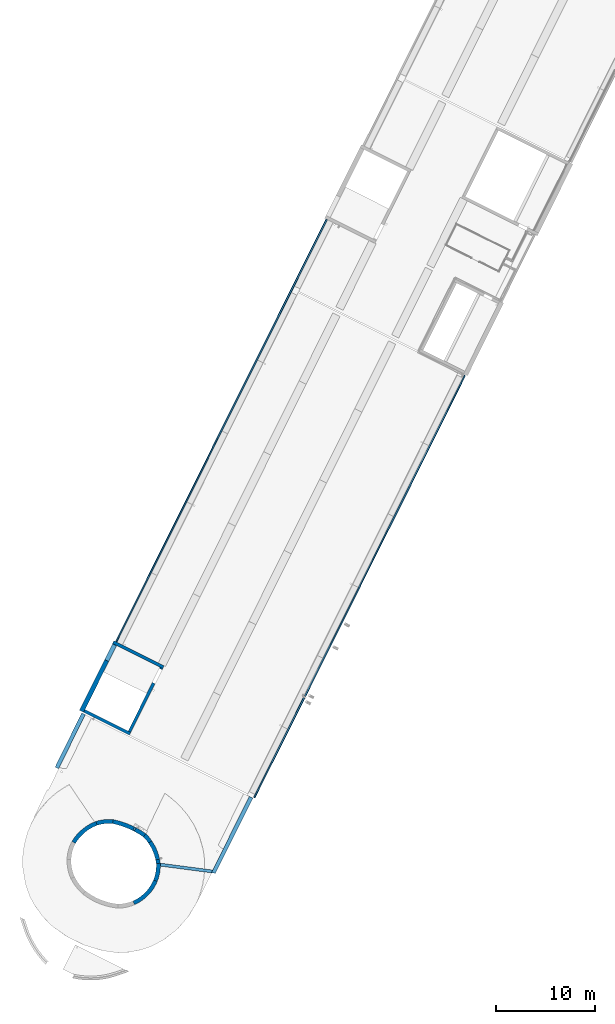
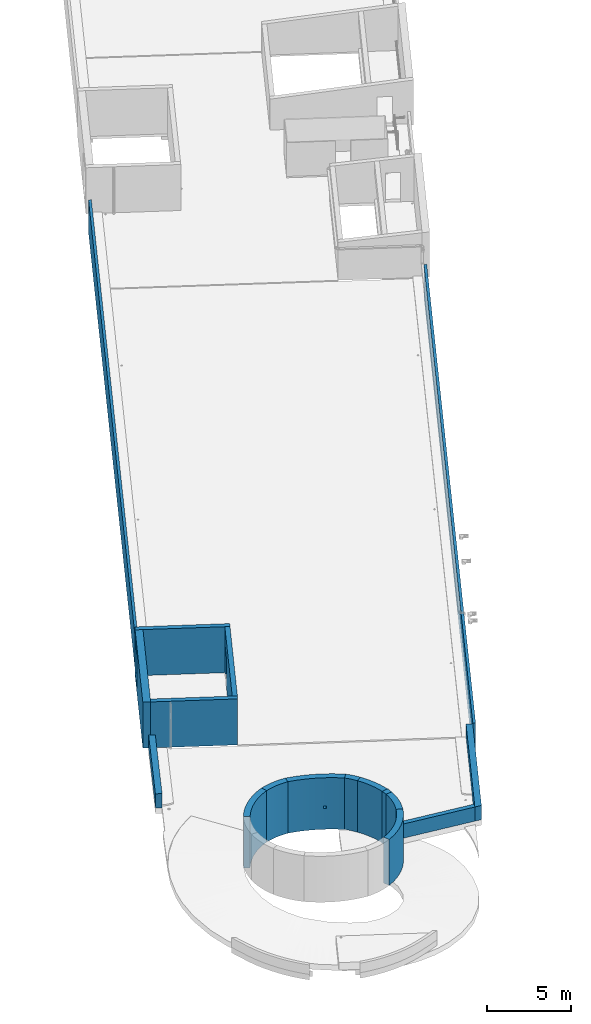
# One storey, part 4 of 34: 17 walls, 3 openings.
"""IFC2X3 building model written with IfcOpenShell, lengths in metres."""

from ifc_helpers import new_model, entity, si_unit, converted_unit, derived_unit, direction, frame, frame_2d, origin, place, context, subcontext, project, spatial, polyline, circle_curve, parameter, trimmed, segment, composite_curve, rectangle, outline, extrude, material, layer, layer_set, layer_usage, type_object, element, save


model = new_model("IFC2X3")

# Units and contexts
model_context = context("Model", 3, precision=1e-05, world=origin(), true_north=direction((0.894925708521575, 0.446215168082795)))
context_of_model = context(None, 3, precision=1e-05, world=origin(), true_north=direction((0.894925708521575, 0.446215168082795)))
body_context = subcontext(model_context, "Body", "Model", "MODEL_VIEW")
ifc_project = project(units=[si_unit("LENGTHUNIT", "METRE"), si_unit("AREAUNIT", "SQUARE_METRE"), si_unit("VOLUMEUNIT", "CUBIC_METRE"), converted_unit("PLANEANGLEUNIT", "DEGREE", entity("IfcRatioMeasure", 0.0174532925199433), si_unit("PLANEANGLEUNIT", "RADIAN"), dimensions=[0, 0, 0, 0, 0, 0, 0]), si_unit("MASSUNIT", "GRAM", prefix="KILO"), si_unit("TIMEUNIT", "SECOND"), si_unit("FREQUENCYUNIT", "HERTZ"), si_unit("THERMODYNAMICTEMPERATUREUNIT", "DEGREE_CELSIUS"), derived_unit("THERMALTRANSMITTANCEUNIT", [(si_unit("MASSUNIT", "GRAM", prefix="KILO"), 1), (si_unit("THERMODYNAMICTEMPERATUREUNIT", "KELVIN"), -1), (si_unit("TIMEUNIT", "SECOND"), -3)]), derived_unit("VOLUMETRICFLOWRATEUNIT", [(si_unit("LENGTHUNIT", "METRE"), 3), (si_unit("TIMEUNIT", "SECOND"), -1)]), si_unit("ELECTRICCURRENTUNIT", "AMPERE"), si_unit("ELECTRICVOLTAGEUNIT", "VOLT"), si_unit("POWERUNIT", "WATT"), si_unit("FORCEUNIT", "NEWTON", prefix="KILO"), si_unit("ILLUMINANCEUNIT", "LUX"), si_unit("LUMINOUSFLUXUNIT", "LUMEN"), si_unit("LUMINOUSINTENSITYUNIT", "CANDELA"), si_unit("PRESSUREUNIT", "PASCAL")], contexts=[model_context, context_of_model])

# Site, building, storey
site_placement = place(None, frame((218.228324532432, 584.720189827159, 0.0), z_axis=(0.0, 0.0, 1.0), x_axis=(0.446215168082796, 0.894925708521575, 0.0)))
site = spatial("IfcSite", under=ifc_project, at=site_placement, Name="Default", CompositionType="ELEMENT")
building_placement = place(site_placement, origin())
building = spatial("IfcBuilding", under=site, at=building_placement, CompositionType="ELEMENT")
storey_placement = place(building_placement, frame((0.0, 0.0, 8.61)))
storey = spatial("IfcBuildingStorey", under=building, at=storey_placement, Name="2 - Piano Secondo", CompositionType="ELEMENT", Elevation=8.61)

# Wall, opening
ifc_material_1 = material(Name="Alluminio")
ifc_layer_1 = layer(ifc_material_1, 0.15)
ifc_material_2 = material(Name="Default - Calcestruzzo")
ifc_layer_2 = layer(ifc_material_2, 0.3)
ifc_material_3 = material(Name="Intonaco - Bianco")
ifc_layer_3 = layer(ifc_material_3, 0.02)
ifc_layer_set_1 = layer_set([ifc_layer_1, ifc_layer_2, ifc_layer_3], Name="Muro di base:Setto CA rivestito int-est 47 cm")
ifc_layer_usage_1 = layer_usage(ifc_layer_set_1, "AXIS2", "NEGATIVE", 0.235)
wall_type_1 = type_object("IfcWallType", Name="Muro di base:Setto CA rivestito int-est 47 cm", PredefinedType="STANDARD", material=ifc_layer_set_1)
wall_1_placement = place(storey_placement, frame((-60.5294493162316, 6.22392100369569, 0.0)))
wall_1 = element("IfcWallStandardCase", 1, at=wall_1_placement, inside=storey, type_object=wall_type_1, material=ifc_layer_usage_1, Name="Muro di base:Setto CA rivestito int-est 47 cm", ObjectType="Muro di base:Setto CA rivestito int-est 47 cm", context=body_context, shape_type="SweptSolid", body=[
    extrude(rectangle(XDim=7.51999999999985, YDim=0.469999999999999, at=frame_2d((3.75999999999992, 0.0), x_axis=(-1.0, 0.0))), origin(), (0.0, 0.0, 1.0), 3.34),
])
opening_1_placement = place(wall_1_placement, frame((5.70999999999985, -1.289, 0.200000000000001)))
element("IfcOpeningElement", 2, at=opening_1_placement, cuts=wall_1, Name="Muro di base:Setto CA rivestito int-est 47 cm", ObjectType="Opening", context=body_context, shape_type="SweptSolid", body=[
    extrude(rectangle(XDim=2.47, YDim=1.8, at=frame_2d((1.11022302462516e-15, -4.32986979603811e-15), x_axis=(1.0, 0.0))), frame((0.900000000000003, 0.0, 1.235), z_axis=(0.0, 1.0, 0.0), x_axis=(0.0, 0.0, -1.0)), (0.0, 0.0, 1.0), 3.048),
])

# Walls
ifc_layer_4 = layer(ifc_material_2, 0.3)
ifc_layer_5 = layer(ifc_material_3, 0.01)
ifc_layer_set_2 = layer_set([ifc_layer_4, ifc_layer_5], Name="Muro di base:Setto CA rivestito int - 31 cm")
ifc_layer_usage_2 = layer_usage(ifc_layer_set_2, "AXIS2", "NEGATIVE", 0.155)
wall_type_2 = type_object("IfcWallType", Name="Muro di base:Setto CA rivestito int - 31 cm", PredefinedType="STANDARD", material=ifc_layer_set_2)
wall_2_placement = place(storey_placement, frame((-52.8544493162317, 6.45892100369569, 0.0), z_axis=(0.0, 0.0, 1.0), x_axis=(0.0, -1.0, 0.0)))
element("IfcWallStandardCase", 3, at=wall_2_placement, inside=storey, type_object=wall_type_2, material=ifc_layer_usage_2, Name="Muro di base:Setto CA rivestito int - 31 cm", ObjectType="Muro di base:Setto CA rivestito int - 31 cm", context=body_context, shape_type="SweptSolid", body=[
    extrude(rectangle(XDim=5.65999999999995, YDim=0.309999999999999, at=frame_2d((2.82999999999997, 0.0), x_axis=(-1.0, 0.0))), origin(), (0.0, 0.0, 1.0), 3.34),
])
ifc_layer_usage_3 = layer_usage(ifc_layer_set_2, "AXIS2", "NEGATIVE", 0.155)
wall_3_placement = place(storey_placement, frame((-60.3744493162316, 0.798921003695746, 0.0), z_axis=(0.0, 0.0, 1.0), x_axis=(0.0, 1.0, 0.0)))
element("IfcWallStandardCase", 4, at=wall_3_placement, inside=storey, type_object=wall_type_2, material=ifc_layer_usage_3, Name="Muro di base:Setto CA rivestito int - 31 cm", ObjectType="Muro di base:Setto CA rivestito int - 31 cm", context=body_context, shape_type="SweptSolid", body=[
    extrude(rectangle(XDim=5.18999999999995, YDim=0.309999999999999, at=frame_2d((2.59499999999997, 0.0), x_axis=(-1.0, 0.0))), origin(), (0.0, 0.0, 1.0), 3.34),
])

# Wall, opening
ifc_layer_usage_4 = layer_usage(ifc_layer_set_2, "AXIS2", "NEGATIVE", 0.155)
wall_4_placement = place(storey_placement, frame((-53.0094493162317, 0.953921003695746, 0.0), z_axis=(0.0, 0.0, 1.0), x_axis=(-1.0, 0.0, 0.0)))
wall_4 = element("IfcWallStandardCase", 5, at=wall_4_placement, inside=storey, type_object=wall_type_2, material=ifc_layer_usage_4, Name="Muro di base:Setto CA rivestito int - 31 cm", ObjectType="Muro di base:Setto CA rivestito int - 31 cm", context=body_context, shape_type="SweptSolid", body=[
    extrude(rectangle(XDim=7.20999999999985, YDim=0.31, at=frame_2d((3.60499999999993, 0.0), x_axis=(-1.0, 0.0))), origin(), (0.0, 0.0, 1.0), 3.34),
])
opening_2_placement = place(wall_4_placement, frame((1.73, 1.369, 0.0)))
element("IfcOpeningElement", 6, at=opening_2_placement, cuts=wall_4, Name="Muro di base:Setto CA rivestito int - 31 cm", ObjectType="Opening", context=body_context, shape_type="SweptSolid", body=[
    extrude(rectangle(XDim=2.15, YDim=1.6, at=frame_2d((0.0, 0.0), x_axis=(0.0, 1.0))), frame((-0.8, -3.048, 1.075), z_axis=(0.0, 1.0, 0.0), x_axis=(1.0, 0.0, 0.0)), (0.0, 0.0, 1.0), 3.048),
])

# Walls
ifc_layer_6 = layer(ifc_material_2, 0.3)
ifc_layer_set_3 = layer_set([ifc_layer_6], Name="Muro di base:Setto CA - 30 cm")
ifc_layer_usage_5 = layer_usage(ifc_layer_set_3, "AXIS2", "NEGATIVE", 0.15)
wall_type_3 = type_object("IfcWallType", Name="Muro di base:Setto CA - 30 cm", PredefinedType="STANDARD", material=ifc_layer_set_3)
wall_5_placement = place(storey_placement, frame((-70.8566129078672, -7.80589881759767, 0.0), z_axis=(0.0, 0.0, 1.0), x_axis=(0.326062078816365, -0.945348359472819, 0.0)))
element("IfcWallStandardCase", 7, at=wall_5_placement, inside=storey, type_object=wall_type_3, material=ifc_layer_usage_5, Name="Muro di base:Setto CA - 30 cm", ObjectType="Muro di base:Setto CA - 30 cm", context=body_context, shape_type="SweptSolid", body=[
    extrude(outline(composite_curve([segment(polyline([(5.23222613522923, -0.150000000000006), (5.33569976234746, 0.150000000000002)]), True, "CONTINUOUS"), segment(polyline([(5.33569976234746, 0.150000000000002), (0.0, 0.149999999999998)]), True, "CONTINUOUS"), segment(trimmed(circle_curve(frame_2d((-4.19853038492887, -0.648106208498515), x_axis=(0.967380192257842, -0.253328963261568)), 4.27371394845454), [parameter(21.3676911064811)], [parameter(25.4376345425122)], True, "PARAMETER"), False, "CONTINUOUS"), segment(polyline([(0.0460568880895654, -0.149999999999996), (5.23222613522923, -0.150000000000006)]), True, "CONTINUOUS")], self_intersect=False)), origin(), (0.0, 0.0, 1.0), 1.03),
])
ifc_layer_7 = layer(ifc_material_3, 0.01)
ifc_layer_8 = layer(ifc_material_2, 0.4)
ifc_layer_set_4 = layer_set([ifc_layer_7, ifc_layer_8], Name="Muro di base:Setto CA intonacato int - 41 cm")
ifc_layer_usage_6 = layer_usage(ifc_layer_set_4, "AXIS2", "POSITIVE", -0.205)
wall_type_4 = type_object("IfcWallType", Name="Muro di base:Setto CA intonacato int - 41 cm", PredefinedType="STANDARD", material=ifc_layer_set_4)
wall_6_placement = place(storey_placement, frame((-72.754707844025, 1.0113971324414, -0.4), z_axis=(0.0, 0.0, 1.0), x_axis=(0.67968048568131, 0.733508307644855, 0.0)))
element("IfcWallStandardCase", 8, at=wall_6_placement, inside=storey, type_object=wall_type_4, material=ifc_layer_usage_6, Name="Muro di base:Setto CA intonacato int - 41 cm", ObjectType="Muro di base:Setto CA intonacato int - 41 cm", context=body_context, shape_type="SweptSolid", body=[
    extrude(outline(composite_curve([segment(trimmed(circle_curve(frame_2d((-3.57404597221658, -2.84716007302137), x_axis=(1.0, 0.0)), 4.77447755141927), [parameter(3.40446573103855e-11)], [parameter(38.5415632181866)], True, "PARAMETER"), True, "CONTINUOUS"), segment(polyline([(0.160342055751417, 0.127731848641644), (-0.154278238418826, -0.13536123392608)]), True, "CONTINUOUS"), segment(trimmed(circle_curve(frame_2d((-3.57404597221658, -2.84716007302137), x_axis=(1.0, 0.0)), 4.36447755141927), [parameter(0.147710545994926)], [parameter(38.4136249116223)], True, "PARAMETER"), False, "CONTINUOUS"), segment(polyline([(0.790417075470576, -2.83590830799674), (1.20043157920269, -2.84716007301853)]), True, "CONTINUOUS")], self_intersect=False)), origin(), (0.0, 0.0, 1.0), 3.74),
])
ifc_layer_usage_7 = layer_usage(ifc_layer_set_4, "AXIS2", "POSITIVE", -0.205)
wall_7_placement = place(storey_placement, frame((-69.9977419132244, -0.185749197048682, -0.4), z_axis=(0.0, 0.0, 1.0), x_axis=(0.931448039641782, 0.363874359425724, 0.0)))
element("IfcWallStandardCase", 9, at=wall_7_placement, inside=storey, type_object=wall_type_4, material=ifc_layer_usage_7, Name="Muro di base:Setto CA intonacato int - 41 cm", ObjectType="Muro di base:Setto CA intonacato int - 41 cm", context=body_context, shape_type="SweptSolid", body=[
    extrude(outline(composite_curve([segment(trimmed(circle_curve(frame_2d((-3.94564680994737, -1.65081916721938), x_axis=(1.0, 0.0)), 4.48207057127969), [parameter(359.999999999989)], [parameter(22.7039466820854)], True, "PARAMETER"), True, "CONTINUOUS"), segment(polyline([(0.189114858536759, 0.0791237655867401), (-0.18479960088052, -0.089477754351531)]), True, "CONTINUOUS"), segment(trimmed(circle_curve(frame_2d((-3.94564680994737, -1.65081916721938), x_axis=(1.0, 0.0)), 4.07207057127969), [parameter(0.320799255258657)], [parameter(22.5461152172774)], True, "PARAMETER"), False, "CONTINUOUS"), segment(polyline([(0.126359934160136, -1.62801975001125), (0.536423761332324, -1.65081916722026)]), True, "CONTINUOUS")], self_intersect=False)), origin(), (0.0, 0.0, 1.0), 3.74),
])

# Wall, opening
ifc_layer_usage_8 = layer_usage(ifc_layer_set_4, "AXIS2", "POSITIVE", -0.205)
wall_8_placement = place(storey_placement, frame((-69.0955108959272, -1.58090963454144, -0.4), z_axis=(0.0, 0.0, 1.0), x_axis=(0.987965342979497, -0.154675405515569, 0.0)))
wall_8 = element("IfcWallStandardCase", 10, at=wall_8_placement, inside=storey, type_object=wall_type_4, material=ifc_layer_usage_8, Name="Muro di base:Setto CA intonacato int - 41 cm", ObjectType="Muro di base:Setto CA intonacato int - 41 cm", context=body_context, shape_type="SweptSolid", body=[
    extrude(outline(composite_curve([segment(polyline([(0.187575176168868, 0.0827076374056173), (-0.178182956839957, -0.10408942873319)]), True, "CONTINUOUS"), segment(trimmed(circle_curve(frame_2d((-7.83321910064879, -3.45390609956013), x_axis=(1.0, 0.0)), 8.3558871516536), [parameter(0.232952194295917)], [parameter(23.6340161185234)], True, "PARAMETER"), False, "CONTINUOUS"), segment(polyline([(0.522598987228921, -3.41993297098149), (0.932664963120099, -3.4465483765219)]), True, "CONTINUOUS"), segment(trimmed(circle_curve(frame_2d((-7.83321910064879, -3.45390609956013), x_axis=(1.0, 0.0)), 8.7658871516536), [parameter(0.0480917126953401)], [parameter(23.7941509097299)], True, "PARAMETER"), True, "CONTINUOUS")], self_intersect=False)), origin(), (0.0, 0.0, 1.0), 3.74),
])
opening_3_placement = place(wall_8_placement, frame((0.447724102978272, -2.34758580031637, 1.51)))
element("IfcOpeningElement", 11, at=opening_3_placement, cuts=wall_8, Name="Muro di base:Setto CA intonacato int - 41 cm", ObjectType="Recess", context=body_context, shape_type="SweptSolid", body=[
    extrude(outline(composite_curve([segment(trimmed(circle_curve(frame_2d((-8.47269251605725, -1.22307445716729), x_axis=(1.0, 0.0)), 8.7658871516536), [parameter(7.68046361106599)], [parameter(8.74790047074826)], True, "PARAMETER"), True, "CONTINUOUS"), segment(polyline([(0.19122180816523, 0.11010450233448), (-0.214008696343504, 0.0477487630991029)]), True, "CONTINUOUS"), segment(trimmed(circle_curve(frame_2d((-8.47269251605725, -1.22307445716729), x_axis=(1.0, 0.0)), 8.3558871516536), [parameter(7.68046361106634)], [parameter(8.74790047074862)], True, "PARAMETER"), False, "CONTINUOUS"), segment(polyline([(-0.191767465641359, -0.106324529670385), (0.214554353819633, -0.0515287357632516)]), True, "CONTINUOUS")], self_intersect=False)), frame((0.191749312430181, 0.116754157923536, 0.0)), (0.0, 0.0, 1.0), 0.17223196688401),
])

# Walls
ifc_layer_usage_9 = layer_usage(ifc_layer_set_4, "AXIS2", "POSITIVE", -0.205)
wall_9_placement = place(storey_placement, frame((-69.2599548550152, -5.88475513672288, -0.4), z_axis=(0.0, 0.0, 1.0), x_axis=(0.621195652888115, -0.78365551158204, 0.0)))
element("IfcWallStandardCase", 12, at=wall_9_placement, inside=storey, type_object=wall_type_4, material=ifc_layer_usage_9, Name="Muro di base:Setto CA intonacato int - 41 cm", ObjectType="Muro di base:Setto CA intonacato int - 41 cm", context=body_context, shape_type="SweptSolid", body=[
    extrude(outline(composite_curve([segment(trimmed(circle_curve(frame_2d((-4.51230855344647, -1.88864638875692), x_axis=(1.0, 0.0)), 5.09661667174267), [parameter(359.999999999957)], [parameter(22.6184181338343)], True, "PARAMETER"), True, "CONTINUOUS"), segment(polyline([(0.192310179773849, 0.0714719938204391), (-0.189103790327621, -0.079150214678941)]), True, "CONTINUOUS"), segment(trimmed(circle_curve(frame_2d((-4.51230855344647, -1.88864638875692), x_axis=(1.0, 0.0)), 4.68661667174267), [parameter(0.0199811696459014)], [parameter(22.7119601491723)], True, "PARAMETER"), False, "CONTINUOUS"), segment(polyline([(0.174307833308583, -1.88701199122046), (0.58430811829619, -1.88864638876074)]), True, "CONTINUOUS")], self_intersect=False)), origin(), (0.0, 0.0, 1.0), 3.74),
])
ifc_layer_usage_10 = layer_usage(ifc_layer_set_4, "AXIS2", "POSITIVE", -0.205)
wall_10_placement = place(storey_placement, frame((-68.9039863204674, -5.07290830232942, -0.4), z_axis=(0.0, 0.0, 1.0), x_axis=(0.856291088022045, -0.516493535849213, 0.0)))
element("IfcWallStandardCase", 13, at=wall_10_placement, inside=storey, type_object=wall_type_4, material=ifc_layer_usage_10, Name="Muro di base:Setto CA intonacato int - 41 cm", ObjectType="Muro di base:Setto CA intonacato int - 41 cm", context=body_context, shape_type="SweptSolid", body=[
    extrude(outline(composite_curve([segment(trimmed(circle_curve(frame_2d((-3.31517749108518, -0.879432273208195), x_axis=(1.0, 0.0)), 3.63484007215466), [parameter(6.41199823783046e-12)], [parameter(14.8569253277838)], True, "PARAMETER"), True, "CONTINUOUS"), segment(polyline([(0.198146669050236, 0.0525632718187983), (-0.191579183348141, -0.077729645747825)]), True, "CONTINUOUS"), segment(trimmed(circle_curve(frame_2d((-3.31517749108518, -0.879432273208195), x_axis=(1.0, 0.0)), 3.22484007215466), [parameter(359.86646942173)], [parameter(14.3948183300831)], True, "PARAMETER"), False, "CONTINUOUS"), segment(polyline([(-0.0903461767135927, -0.886947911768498), (0.319662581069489, -0.87943227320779)]), True, "CONTINUOUS")], self_intersect=False)), origin(), (0.0, 0.0, 1.0), 3.74),
])
ifc_layer_usage_11 = layer_usage(ifc_layer_set_4, "AXIS2", "POSITIVE", -0.205)
wall_11_placement = place(storey_placement, frame((-70.5030947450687, -7.35421167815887, -0.4), z_axis=(0.0, 0.0, 1.0), x_axis=(0.546021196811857, -0.837771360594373, 0.0)))
element("IfcWallStandardCase", 14, at=wall_11_placement, inside=storey, type_object=wall_type_4, material=ifc_layer_usage_11, Name="Muro di base:Setto CA intonacato int - 41 cm", ObjectType="Muro di base:Setto CA intonacato int - 41 cm", context=body_context, shape_type="SweptSolid", body=[
    extrude(outline(composite_curve([segment(trimmed(circle_curve(frame_2d((-4.6797065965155, -0.397294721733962), x_axis=(1.0, 0.0)), 4.90154095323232), [parameter(359.999999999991)], [parameter(4.85262404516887)], True, "PARAMETER"), True, "CONTINUOUS"), segment(polyline([(0.204265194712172, 0.0173415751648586), (-0.20412747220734, -0.0189673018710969)]), True, "CONTINUOUS"), segment(trimmed(circle_curve(frame_2d((-4.6797065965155, -0.397294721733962), x_axis=(1.0, 0.0)), 4.49154095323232), [parameter(0.151241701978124)], [parameter(4.83181138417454)], True, "PARAMETER"), False, "CONTINUOUS"), segment(polyline([(-0.188181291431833, -0.385438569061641), (0.221834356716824, -0.397294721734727)]), True, "CONTINUOUS")], self_intersect=False)), origin(), (0.0, 0.0, 1.0), 3.74),
])
ifc_layer_usage_12 = layer_usage(ifc_layer_set_4, "AXIS2", "POSITIVE", -0.205)
wall_12_placement = place(storey_placement, frame((-70.816668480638, -7.57908508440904, -0.4), z_axis=(0.0, 0.0, 1.0), x_axis=(0.075941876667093, -0.997112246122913, 0.0)))
element("IfcWallStandardCase", 15, at=wall_12_placement, inside=storey, type_object=wall_type_4, material=ifc_layer_usage_12, Name="Muro di base:Setto CA intonacato int - 41 cm", ObjectType="Muro di base:Setto CA intonacato int - 41 cm", context=body_context, shape_type="SweptSolid", body=[
    extrude(outline(composite_curve([segment(trimmed(circle_curve(frame_2d((-3.6742657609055, -1.74762819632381), x_axis=(1.0, 0.0)), 4.27371394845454), [parameter(359.999999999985)], [parameter(25.4376350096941)], True, "PARAMETER"), True, "CONTINUOUS"), segment(polyline([(0.185125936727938, 0.08805332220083), (-0.180083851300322, -0.0986957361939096)]), True, "CONTINUOUS"), segment(trimmed(circle_curve(frame_2d((-3.6742657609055, -1.74762819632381), x_axis=(1.0, 0.0)), 3.86371394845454), [parameter(0.010228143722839)], [parameter(25.2630003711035)], True, "PARAMETER"), False, "CONTINUOUS"), segment(polyline([(0.189448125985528, -1.74693846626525), (0.599448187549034, -1.74762819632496)]), True, "CONTINUOUS")], self_intersect=False)), origin(), (0.0, 0.0, 1.0), 3.74),
])
ifc_layer_usage_13 = layer_usage(ifc_layer_set_4, "AXIS2", "POSITIVE", -0.205)
wall_13_placement = place(storey_placement, frame((-72.5286066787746, -8.10506112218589, 0.0), z_axis=(0.0, 0.0, 1.0), x_axis=(-0.644290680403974, -0.764780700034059, 0.0)))
element("IfcWallStandardCase", 16, at=wall_13_placement, inside=storey, type_object=wall_type_4, material=ifc_layer_usage_13, Name="Muro di base:Setto CA intonacato int - 41 cm", ObjectType="Muro di base:Setto CA intonacato int - 41 cm", context=body_context, shape_type="SweptSolid", body=[
    extrude(outline(composite_curve([segment(trimmed(circle_curve(frame_2d((-2.96750184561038, -2.89333629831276), x_axis=(1.0, 0.0)), 4.34957019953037), [parameter(3.40955461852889e-12)], [parameter(44.274993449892)], True, "PARAMETER"), True, "CONTINUOUS"), segment(polyline([(0.146779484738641, 0.143111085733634), (-0.14629758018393, -0.143605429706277)]), True, "CONTINUOUS"), segment(trimmed(circle_curve(frame_2d((-2.96750184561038, -2.89333629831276), x_axis=(1.0, 0.0)), 3.93957019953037), [parameter(0.0104167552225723)], [parameter(44.2649529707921)], True, "PARAMETER"), False, "CONTINUOUS"), segment(polyline([(0.972068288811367, -2.89262005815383), (1.38206835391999, -2.8933362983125)]), True, "CONTINUOUS")], self_intersect=False)), origin(), (0.0, 0.0, 1.0), 3.34),
])
ifc_layer_9 = layer(ifc_material_2, 0.17)
ifc_layer_set_5 = layer_set([ifc_layer_9], Name="Muro di base:Pannelli Pref - 17 cm")
ifc_layer_usage_14 = layer_usage(ifc_layer_set_5, "AXIS2", "NEGATIVE", 0.085)
wall_type_5 = type_object("IfcWallType", Name="Muro di base:Pannelli Pref - 17 cm", PredefinedType="STANDARD", material=ifc_layer_set_5)
wall_14_placement = place(storey_placement, frame((-52.6994493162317, 6.21392100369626, -1.39)))
element("IfcWallStandardCase", 17, at=wall_14_placement, inside=storey, type_object=wall_type_5, material=ifc_layer_usage_14, Name="Muro di base:Pannelli Pref - 17 cm", ObjectType="Muro di base:Pannelli Pref - 17 cm", context=body_context, shape_type="SweptSolid", body=[
    extrude(rectangle(XDim=47.7136642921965, YDim=0.17, at=frame_2d((23.8568321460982, 0.0), x_axis=(-1.0, 0.0))), origin(), (0.0, 0.0, 1.0), 2.4),
])
ifc_layer_usage_15 = layer_usage(ifc_layer_set_5, "AXIS2", "NEGATIVE", 0.085)
wall_15_placement = place(storey_placement, frame((-12.8843716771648, -13.2960789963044, -1.39), z_axis=(0.0, 0.0, 1.0), x_axis=(-1.0, 0.0, 0.0)))
element("IfcWallStandardCase", 18, at=wall_15_placement, inside=storey, type_object=wall_type_5, material=ifc_layer_usage_15, Name="Muro di base:Pannelli Pref - 17 cm", ObjectType="Muro di base:Pannelli Pref - 17 cm", context=body_context, shape_type="SweptSolid", body=[
    extrude(rectangle(XDim=47.66, YDim=0.17, at=frame_2d((23.83, -3.46944695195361e-16), x_axis=(-1.0, 0.0))), origin(), (0.0, 0.0, 1.0), 2.4),
])
ifc_layer_10 = layer(ifc_material_2, 0.4)
ifc_layer_set_6 = layer_set([ifc_layer_10], Name="Muro di base:Setto CA - 40 cm")
ifc_layer_usage_16 = layer_usage(ifc_layer_set_6, "AXIS2", "NEGATIVE", 0.2)
wall_type_6 = type_object("IfcWallType", Name="Muro di base:Setto CA - 40 cm", PredefinedType="STANDARD", material=ifc_layer_set_6)
wall_16_placement = place(storey_placement, frame((-69.292384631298, -13.0010845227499, 0.0)))
element("IfcWallStandardCase", 19, at=wall_16_placement, inside=storey, type_object=wall_type_6, material=ifc_layer_usage_16, Name="Muro di base:Setto CA - 40 cm", ObjectType="Muro di base:Setto CA - 40 cm", context=body_context, shape_type="SweptSolid", body=[
    extrude(outline(polyline([(8.63293531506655, -0.2), (8.63293531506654, 0.2), (0.317343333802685, 0.200000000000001), (0.0, 0.2), (0.137964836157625, -0.2), (8.63293531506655, -0.2)])), origin(), (0.0, 0.0, 1.0), 1.03),
])
ifc_material_4 = material(Name="Calcestruzzo, gettato in opera")
wall_type_7 = type_object("IfcWallType", Name="Muri 1:Muri 1", PredefinedType="NOTDEFINED", material=ifc_material_4)
wall_17_placement = place(storey_placement, frame((-66.7689659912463, 5.68887601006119, 0.0)))
element("IfcWall", 20, at=wall_17_placement, inside=storey, type_object=wall_type_7, material=ifc_material_4, Name="Muri 1:Muri 1", ObjectType="Muri 1:Muri 1", context=body_context, shape_type="SweptSolid", body=[
    extrude(outline(polyline([(-0.184207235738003, -3.05475833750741), (0.215798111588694, -3.05475833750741), (0.184207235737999, 3.05475833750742), (-0.21579811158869, 3.05475833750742), (-0.184207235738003, -3.05475833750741)])), frame((3.05475833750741, 0.215798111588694, 0.0), z_axis=(0.0, 0.0, 1.0), x_axis=(0.0, -1.0, 0.0)), (0.0, 0.0, 1.0), 1.03),
])

save(model, "model.ifc")
